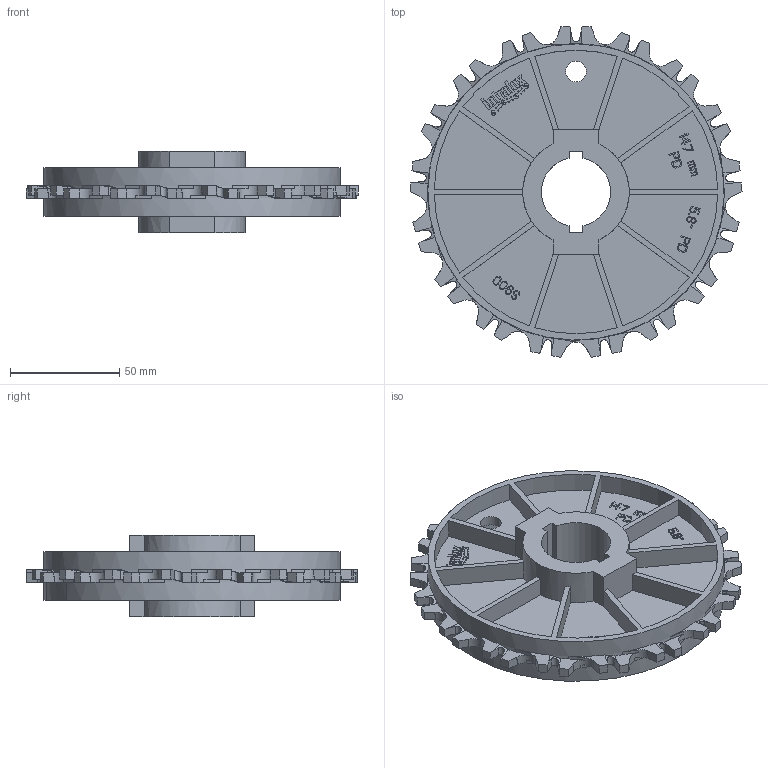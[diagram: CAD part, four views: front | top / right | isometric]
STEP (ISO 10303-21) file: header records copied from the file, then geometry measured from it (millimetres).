
FILE_DESCRIPTION((''),'2;1');
FILE_NAME('S900_SPROCKET_58X1-3_16_PILOT','2008-12-12T',('jmumphre'),(''),'PRO/ENGINEER BY PARAMETRIC TECHNOLOGY CORPORATION, 2008150','PRO/ENGINEER BY PARAMETRIC TECHNOLOGY CORPORATION, 2008150','');
FILE_SCHEMA(('CONFIG_CONTROL_DESIGN'));
Length unit declared in the file: inch
Products named in the file (1): S900_SPROCKET_58X1-3_16_PILOT
Bounding box: 152.24 x 151.59 x 37.59 mm (x, y, z)
Volume: 150312.2 mm3; surface area: 72353.6 mm2
Topology: 1 solids, 1 shells, 1154 faces, 3386 edges, 2280 vertices
Faces by surface type: plane 998, cylinder 156
Entity records: 38512 total; most frequent: CARTESIAN_POINT 7598, ORIENTED_EDGE 6772, DIRECTION 5924, EDGE_CURVE 3386, VECTOR 2880, LINE 2880, VERTEX_POINT 2280, AXIS2_PLACEMENT_3D 1522
